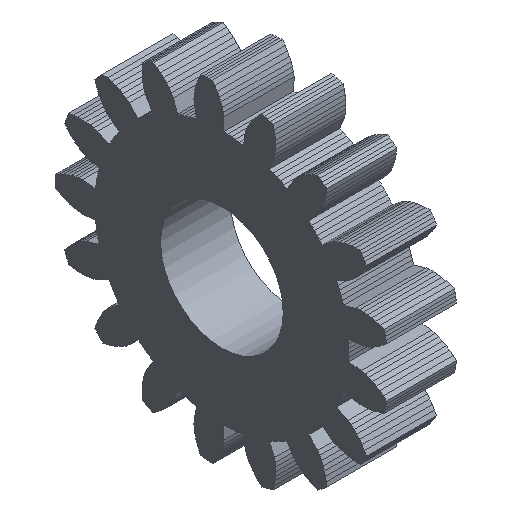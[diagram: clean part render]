
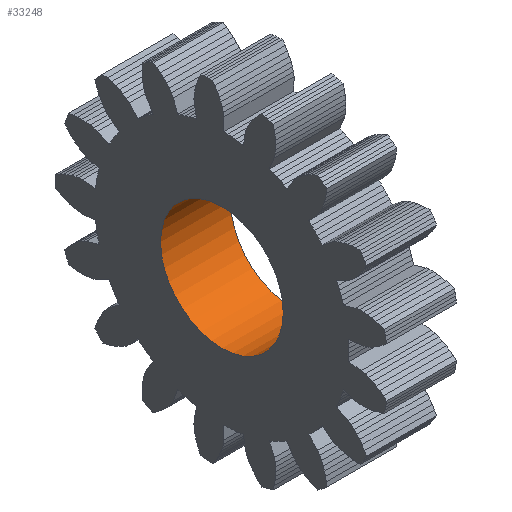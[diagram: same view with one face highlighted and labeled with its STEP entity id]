
A CAD part, isometric view. The second image highlights one B-rep face of the part: STEP entity #33248.
In plain terms, the highlighted cylindrical face has radius 7 mm (diameter 14 mm), a full revolution.
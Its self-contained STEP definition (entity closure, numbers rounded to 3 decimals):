
#72 = PLANE('',#73);
#73 = AXIS2_PLACEMENT_3D('',#74,#75,#76);
#74 = CARTESIAN_POINT('',(14.5,0.,0.));
#75 = DIRECTION('',(1.,0.,0.));
#76 = DIRECTION('',(0.,1.,0.));
#126 = PLANE('',#127);
#127 = AXIS2_PLACEMENT_3D('',#128,#129,#130);
#128 = CARTESIAN_POINT('',(6.5,0.,0.));
#129 = DIRECTION('',(1.,0.,0.));
#130 = DIRECTION('',(0.,1.,0.));
#12102 = EDGE_CURVE('',#12103,#12103,#12105,.T.);
#12103 = VERTEX_POINT('',#12104);
#12104 = CARTESIAN_POINT('',(6.5,7.,0.));
#12105 = SURFACE_CURVE('',#12106,(#12111,#12122),.PCURVE_S1.);
#12106 = CIRCLE('',#12107,7.);
#12107 = AXIS2_PLACEMENT_3D('',#12108,#12109,#12110);
#12108 = CARTESIAN_POINT('',(6.5,0.,0.));
#12109 = DIRECTION('',(-1.,0.,0.));
#12110 = DIRECTION('',(0.,1.,0.));
#12111 = PCURVE('',#126,#12112);
#12112 = DEFINITIONAL_REPRESENTATION('',(#12113),#12121);
#12113 = ( BOUNDED_CURVE() B_SPLINE_CURVE(2,(#12114,#12115,#12116,#12117
    ,#12118,#12119,#12120),.UNSPECIFIED.,.T.,.F.) 
B_SPLINE_CURVE_WITH_KNOTS((1,2,2,2,2,1),(-2.094,0.,
    2.094,4.189,6.283,8.378),
.UNSPECIFIED.) CURVE() GEOMETRIC_REPRESENTATION_ITEM() 
RATIONAL_B_SPLINE_CURVE((1.,0.5,1.,0.5,1.,0.5,1.)) REPRESENTATION_ITEM(
  '') );
#12114 = CARTESIAN_POINT('',(7.,0.));
#12115 = CARTESIAN_POINT('',(7.,-12.124));
#12116 = CARTESIAN_POINT('',(-3.5,-6.062));
#12117 = CARTESIAN_POINT('',(-14.,0.));
#12118 = CARTESIAN_POINT('',(-3.5,6.062));
#12119 = CARTESIAN_POINT('',(7.,12.124));
#12120 = CARTESIAN_POINT('',(7.,0.));
#12121 = ( GEOMETRIC_REPRESENTATION_CONTEXT(2) 
PARAMETRIC_REPRESENTATION_CONTEXT() REPRESENTATION_CONTEXT('2D SPACE',''
  ) );
#12122 = PCURVE('',#12123,#12128);
#12123 = CYLINDRICAL_SURFACE('',#12124,7.);
#12124 = AXIS2_PLACEMENT_3D('',#12125,#12126,#12127);
#12125 = CARTESIAN_POINT('',(6.,0.,0.));
#12126 = DIRECTION('',(-1.,-0.,-0.));
#12127 = DIRECTION('',(0.,1.,0.));
#12128 = DEFINITIONAL_REPRESENTATION('',(#12129),#12133);
#12129 = LINE('',#12130,#12131);
#12130 = CARTESIAN_POINT('',(-6.283,-0.5));
#12131 = VECTOR('',#12132,1.);
#12132 = DIRECTION('',(1.,-0.));
#12133 = ( GEOMETRIC_REPRESENTATION_CONTEXT(2) 
PARAMETRIC_REPRESENTATION_CONTEXT() REPRESENTATION_CONTEXT('2D SPACE',''
  ) );
#21847 = EDGE_CURVE('',#21848,#21848,#21850,.T.);
#21848 = VERTEX_POINT('',#21849);
#21849 = CARTESIAN_POINT('',(14.5,7.,0.));
#21850 = SURFACE_CURVE('',#21851,(#21856,#21867),.PCURVE_S1.);
#21851 = CIRCLE('',#21852,7.);
#21852 = AXIS2_PLACEMENT_3D('',#21853,#21854,#21855);
#21853 = CARTESIAN_POINT('',(14.5,0.,0.));
#21854 = DIRECTION('',(-1.,0.,0.));
#21855 = DIRECTION('',(0.,1.,0.));
#21856 = PCURVE('',#72,#21857);
#21857 = DEFINITIONAL_REPRESENTATION('',(#21858),#21866);
#21858 = ( BOUNDED_CURVE() B_SPLINE_CURVE(2,(#21859,#21860,#21861,#21862
    ,#21863,#21864,#21865),.UNSPECIFIED.,.T.,.F.) 
B_SPLINE_CURVE_WITH_KNOTS((1,2,2,2,2,1),(-2.094,0.,
    2.094,4.189,6.283,8.378),
.UNSPECIFIED.) CURVE() GEOMETRIC_REPRESENTATION_ITEM() 
RATIONAL_B_SPLINE_CURVE((1.,0.5,1.,0.5,1.,0.5,1.)) REPRESENTATION_ITEM(
  '') );
#21859 = CARTESIAN_POINT('',(7.,0.));
#21860 = CARTESIAN_POINT('',(7.,-12.124));
#21861 = CARTESIAN_POINT('',(-3.5,-6.062));
#21862 = CARTESIAN_POINT('',(-14.,0.));
#21863 = CARTESIAN_POINT('',(-3.5,6.062));
#21864 = CARTESIAN_POINT('',(7.,12.124));
#21865 = CARTESIAN_POINT('',(7.,0.));
#21866 = ( GEOMETRIC_REPRESENTATION_CONTEXT(2) 
PARAMETRIC_REPRESENTATION_CONTEXT() REPRESENTATION_CONTEXT('2D SPACE',''
  ) );
#21867 = PCURVE('',#12123,#21868);
#21868 = DEFINITIONAL_REPRESENTATION('',(#21869),#21873);
#21869 = LINE('',#21870,#21871);
#21870 = CARTESIAN_POINT('',(-6.283,-8.5));
#21871 = VECTOR('',#21872,1.);
#21872 = DIRECTION('',(1.,-0.));
#21873 = ( GEOMETRIC_REPRESENTATION_CONTEXT(2) 
PARAMETRIC_REPRESENTATION_CONTEXT() REPRESENTATION_CONTEXT('2D SPACE',''
  ) );
#33248 = ADVANCED_FACE('',(#33249),#12123,.F.);
#33249 = FACE_BOUND('',#33250,.T.);
#33250 = EDGE_LOOP('',(#33251,#33252,#33273,#33274));
#33251 = ORIENTED_EDGE('',*,*,#12102,.T.);
#33252 = ORIENTED_EDGE('',*,*,#33253,.T.);
#33253 = EDGE_CURVE('',#12103,#21848,#33254,.T.);
#33254 = SEAM_CURVE('',#33255,(#33259,#33266),.PCURVE_S1.);
#33255 = LINE('',#33256,#33257);
#33256 = CARTESIAN_POINT('',(6.,7.,0.));
#33257 = VECTOR('',#33258,1.);
#33258 = DIRECTION('',(1.,0.,0.));
#33259 = PCURVE('',#12123,#33260);
#33260 = DEFINITIONAL_REPRESENTATION('',(#33261),#33265);
#33261 = LINE('',#33262,#33263);
#33262 = CARTESIAN_POINT('',(-6.283,0.));
#33263 = VECTOR('',#33264,1.);
#33264 = DIRECTION('',(-0.,-1.));
#33265 = ( GEOMETRIC_REPRESENTATION_CONTEXT(2) 
PARAMETRIC_REPRESENTATION_CONTEXT() REPRESENTATION_CONTEXT('2D SPACE',''
  ) );
#33266 = PCURVE('',#12123,#33267);
#33267 = DEFINITIONAL_REPRESENTATION('',(#33268),#33272);
#33268 = LINE('',#33269,#33270);
#33269 = CARTESIAN_POINT('',(-0.,0.));
#33270 = VECTOR('',#33271,1.);
#33271 = DIRECTION('',(-0.,-1.));
#33272 = ( GEOMETRIC_REPRESENTATION_CONTEXT(2) 
PARAMETRIC_REPRESENTATION_CONTEXT() REPRESENTATION_CONTEXT('2D SPACE',''
  ) );
#33273 = ORIENTED_EDGE('',*,*,#21847,.F.);
#33274 = ORIENTED_EDGE('',*,*,#33253,.F.);
